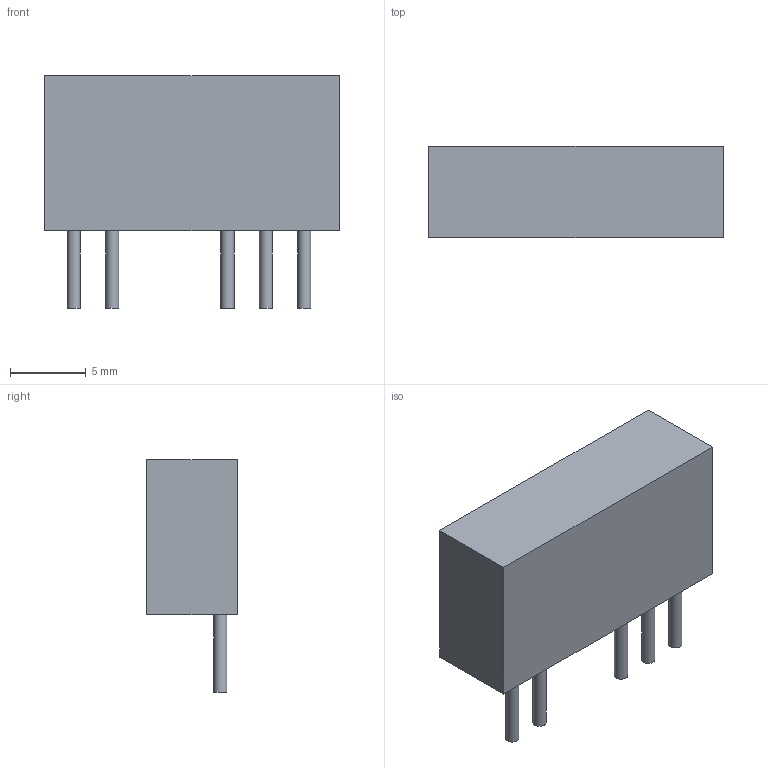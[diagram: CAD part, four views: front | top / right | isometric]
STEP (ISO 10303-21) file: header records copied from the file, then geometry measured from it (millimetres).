
FILE_DESCRIPTION(('FreeCAD Model'),'2;1');
FILE_NAME('/var/www/3D/0T/796378.1.3.stp','2022-10-20T03:23:54',( 'Author'),(''),'Open CASCADE STEP processor 6.9','FreeCAD','Unknown' );
FILE_SCHEMA(('AUTOMOTIVE_DESIGN { 1 0 10303 214 1 1 1 1 }'));
Length unit declared in the file: millimetre
Products named in the file (3): ASSEMBLY; Body; Leads
Assembly tree (2 placements, depth 2):
  ASSEMBLY
    Body
    Leads
Bounding box: 19.5 x 6 x 15.35 mm (x, y, z)
Volume: 1214.6 mm3; surface area: 832.9 mm2
Topology: 6 solids, 6 shells, 21 faces, 27 edges, 18 vertices
Faces by surface type: plane 16, cylinder 5
Full cylindrical faces by diameter (mm): 0.875 x5
Entity records: 876 total; most frequent: DIRECTION 139, CARTESIAN_POINT 123, LINE 61, VECTOR 61, ORIENTED_EDGE 54, PCURVE 54, DEFINITIONAL_REPRESENTATION 54, AXIS2_PLACEMENT_3D 34
